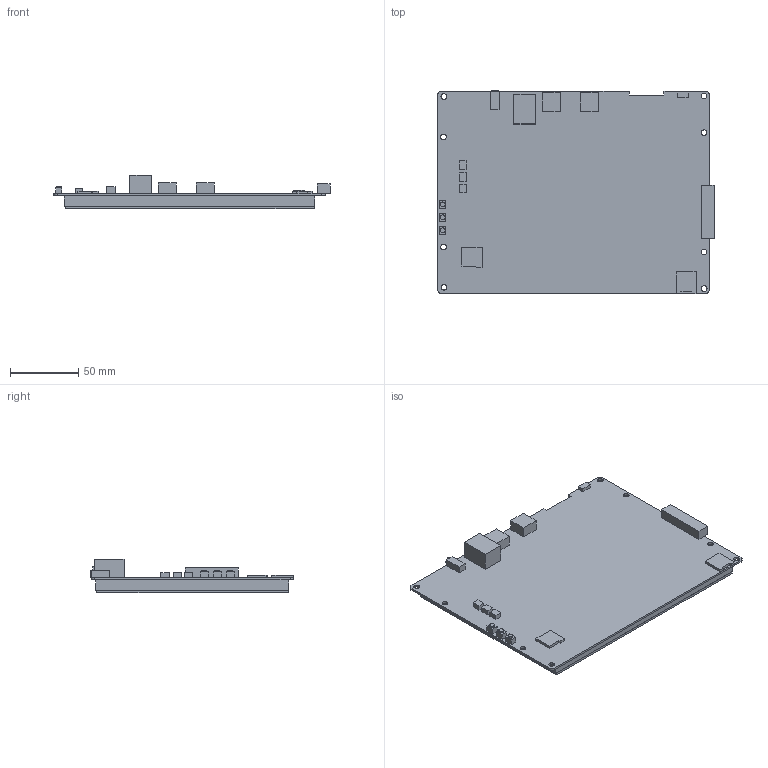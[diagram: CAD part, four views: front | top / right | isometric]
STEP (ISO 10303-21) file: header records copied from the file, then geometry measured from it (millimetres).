
FILE_DESCRIPTION((''),'2;1');
FILE_NAME('3D-DMG10768T080-33WTC','2022-08-18T',('Administrator'),(''),'PRO/ENGINEER BY PARAMETRIC TECHNOLOGY CORPORATION, 2008380','PRO/ENGINEER BY PARAMETRIC TECHNOLOGY CORPORATION, 2008380','');
FILE_SCHEMA(('CONFIG_CONTROL_DESIGN'));
Products named in the file (1): 3D-DMG10768T080-33WTC
Bounding box: 203.09 x 149.4 x 24.38 mm (x, y, z)
Volume: 301563.5 mm3; surface area: 70277.6 mm2
Topology: 1 solids, 1 shells, 133 faces, 18240 edges, 32900 vertices
Faces by surface type: plane 105, cylinder 28
Entity records: 150545 total; most frequent: DIRECTION 21705, CARTESIAN_POINT 18594, PRESENTATION_STYLE_ASSIGNMENT 17920, STYLED_ITEM 17920, CURVE_STYLE 17912, TRIMMED_CURVE 17906, VECTOR 15043, LINE 15043
